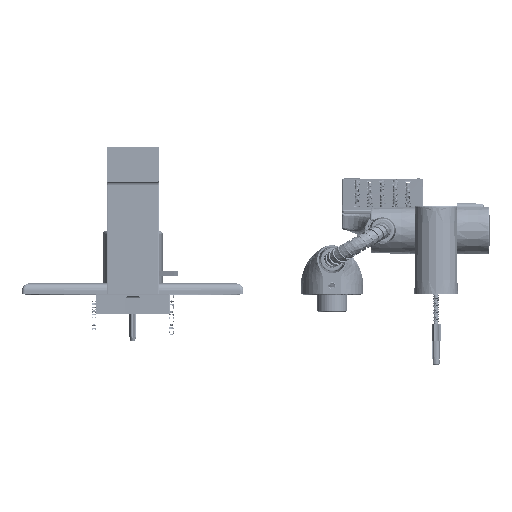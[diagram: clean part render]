
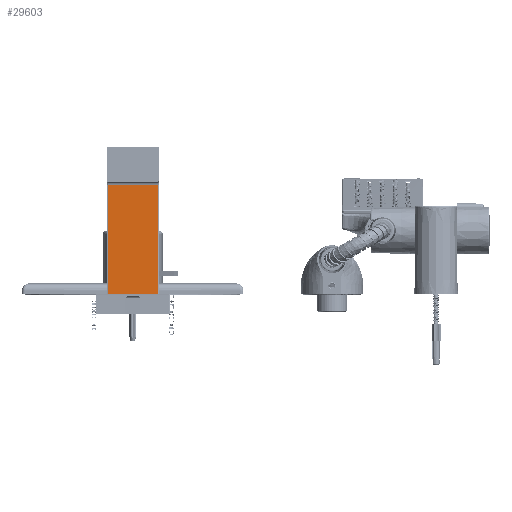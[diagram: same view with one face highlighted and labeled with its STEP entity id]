
A CAD part, front view. The second image highlights one B-rep face of the part: STEP entity #29603.
In plain terms, the highlighted planar face has unit normal (0, -1, 0).
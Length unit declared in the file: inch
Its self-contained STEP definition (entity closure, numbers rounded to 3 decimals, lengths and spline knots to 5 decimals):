
#10163 = DIRECTION ( 'NONE',  ( -1., 0., 0. ) ) ;
#11759 = PLANE ( 'NONE',  #107082 ) ;
#29347 = FACE_OUTER_BOUND ( 'NONE', #197749, .T. ) ;
#29603 = ADVANCED_FACE ( 'NONE', ( #29347 ), #11759, .T. ) ;
#33930 = LINE ( 'NONE', #219545, #221962 ) ;
#42034 = CARTESIAN_POINT ( 'NONE',  ( -0.88583, -18.35717, 3.70079 ) ) ;
#49244 = ORIENTED_EDGE ( 'NONE', *, *, #208438, .T. ) ;
#60278 = DIRECTION ( 'NONE',  ( 0., 0., 1. ) ) ;
#66557 = ORIENTED_EDGE ( 'NONE', *, *, #71764, .T. ) ;
#71764 = EDGE_CURVE ( 'NONE', #235810, #189313, #159250, .T. ) ;
#77652 = EDGE_CURVE ( 'NONE', #176977, #183820, #113584, .T. ) ;
#80867 = DIRECTION ( 'NONE',  ( -1., 0., 0. ) ) ;
#83529 = CARTESIAN_POINT ( 'NONE',  ( -0.84646, -18.35717, 3.70079 ) ) ;
#89216 = VECTOR ( 'NONE', #147547, 39.37008 ) ;
#89862 = CARTESIAN_POINT ( 'NONE',  ( -0.84646, -18.35717, 3.8189 ) ) ;
#101445 = EDGE_CURVE ( 'NONE', #235810, #183820, #33930, .T. ) ;
#105776 = CARTESIAN_POINT ( 'NONE',  ( -0.88583, -18.35717, 3.8189 ) ) ;
#107082 = AXIS2_PLACEMENT_3D ( 'NONE', #105776, #216170, #182261 ) ;
#113584 = LINE ( 'NONE', #89862, #89216 ) ;
#142466 = ORIENTED_EDGE ( 'NONE', *, *, #77652, .T. ) ;
#147547 = DIRECTION ( 'NONE',  ( 0., 0., -1. ) ) ;
#154890 = LINE ( 'NONE', #42034, #209329 ) ;
#159250 = LINE ( 'NONE', #211985, #236884 ) ;
#168095 = CARTESIAN_POINT ( 'NONE',  ( 0.84646, -18.35717, 3.70079 ) ) ;
#176977 = VERTEX_POINT ( 'NONE', #83529 ) ;
#181559 = CARTESIAN_POINT ( 'NONE',  ( 0.84646, -18.35717, 0. ) ) ;
#182261 = DIRECTION ( 'NONE',  ( 0., 0., -1. ) ) ;
#183820 = VERTEX_POINT ( 'NONE', #202573 ) ;
#189313 = VERTEX_POINT ( 'NONE', #168095 ) ;
#197749 = EDGE_LOOP ( 'NONE', ( #49244, #142466, #224659, #66557 ) ) ;
#202573 = CARTESIAN_POINT ( 'NONE',  ( -0.84646, -18.35717, 0. ) ) ;
#208438 = EDGE_CURVE ( 'NONE', #189313, #176977, #154890, .T. ) ;
#209329 = VECTOR ( 'NONE', #80867, 39.37008 ) ;
#211985 = CARTESIAN_POINT ( 'NONE',  ( 0.84646, -18.35717, 3.8189 ) ) ;
#216170 = DIRECTION ( 'NONE',  ( 0., -1., 0. ) ) ;
#219545 = CARTESIAN_POINT ( 'NONE',  ( -0.88583, -18.35717, 0. ) ) ;
#221962 = VECTOR ( 'NONE', #10163, 39.37008 ) ;
#224659 = ORIENTED_EDGE ( 'NONE', *, *, #101445, .F. ) ;
#235810 = VERTEX_POINT ( 'NONE', #181559 ) ;
#236884 = VECTOR ( 'NONE', #60278, 39.37008 ) ;
